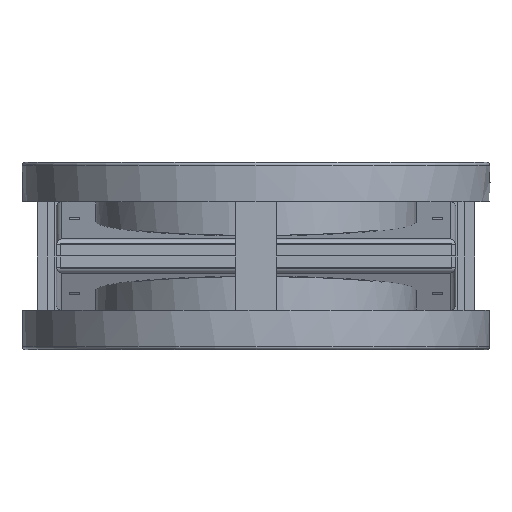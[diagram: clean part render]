
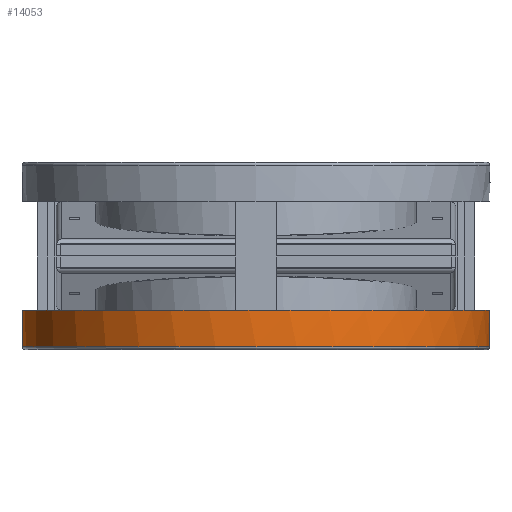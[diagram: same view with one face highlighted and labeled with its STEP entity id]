
A CAD part, front view. The second image highlights one B-rep face of the part: STEP entity #14053.
In plain terms, the highlighted cylindrical face has radius 112.4 mm (diameter 224.8 mm), a full revolution.
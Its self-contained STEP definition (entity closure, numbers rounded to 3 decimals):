
#3691=ELLIPSE('',#31965,112.829,112.4);
#7919=CYLINDRICAL_SURFACE('',#31966,112.4);
#9202=FACE_BOUND('',#16806,.T.);
#9203=FACE_BOUND('',#16807,.T.);
#14053=ADVANCED_FACE('',(#9202,#9203),#7919,.T.);
#16806=EDGE_LOOP('',(#23071));
#16807=EDGE_LOOP('',(#23072,#23073));
#23071=ORIENTED_EDGE('',*,*,#28769,.F.);
#23072=ORIENTED_EDGE('',*,*,#28770,.T.);
#23073=ORIENTED_EDGE('',*,*,#28762,.T.);
#25577=VERTEX_POINT('',#59235);
#25578=VERTEX_POINT('',#59236);
#25585=VERTEX_POINT('',#59258);
#28762=EDGE_CURVE('',#25578,#25577,#29846,.T.);
#28769=EDGE_CURVE('',#25585,#25585,#29853,.T.);
#28770=EDGE_CURVE('',#25577,#25578,#3691,.T.);
#29846=CIRCLE('',#31950,112.4);
#29853=CIRCLE('',#31964,112.4);
#31950=AXIS2_PLACEMENT_3D('',#59237,#37859,#37860);
#31964=AXIS2_PLACEMENT_3D('',#59257,#37887,#37888);
#31965=AXIS2_PLACEMENT_3D('',#59259,#37889,#37890);
#31966=AXIS2_PLACEMENT_3D('',#59260,#37891,#37892);
#37859=DIRECTION('',(-1.,0.,0.));
#37860=DIRECTION('',(0.,0.,1.));
#37887=DIRECTION('',(-1.,0.,0.));
#37888=DIRECTION('',(0.,0.,1.));
#37889=DIRECTION('',(-0.996,-0.087,0.));
#37890=DIRECTION('',(-0.087,0.996,0.));
#37891=DIRECTION('',(-1.,0.,0.));
#37892=DIRECTION('',(0.,0.,1.));
#59235=CARTESIAN_POINT('',(19.,108.597,28.991));
#59236=CARTESIAN_POINT('',(19.,108.597,-28.991));
#59237=CARTESIAN_POINT('',(19.,0.,0.));
#59257=CARTESIAN_POINT('',(1.5,0.,0.));
#59258=CARTESIAN_POINT('',(1.5,0.,112.4));
#59259=CARTESIAN_POINT('',(28.501,0.,0.));
#59260=CARTESIAN_POINT('',(0.,0.,0.));
